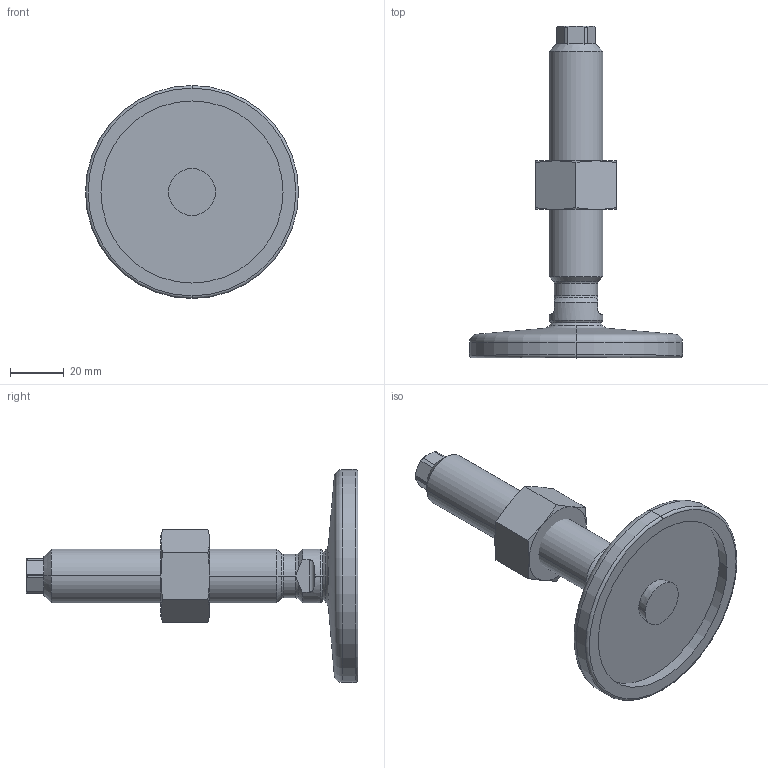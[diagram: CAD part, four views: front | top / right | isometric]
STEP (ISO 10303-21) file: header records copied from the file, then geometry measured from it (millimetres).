
FILE_DESCRIPTION (( 'STEP AP214' ), '1' );
FILE_NAME ('21-80-M20-100-D0-VK.step', '2020-10-02T17:36:04', ( '' ), ( '' ), 'SwSTEP 2.0', 'SolidWorks 2019', '' );
FILE_SCHEMA (( 'AUTOMOTIVE_DESIGN' ));
Length unit declared in the file: millimetre
Products named in the file (4): WB4032^WB21_V_M20; 21-80-M20-100-D0-VK; WB21_Fußteller 21^WB21_V_D0-080-R12-B9 (M20); WB21_Spindel_V^WB21_V_M20-100
Assembly tree (3 placements, depth 2):
  21-80-M20-100-D0-VK
    WB21_Fußteller 21^WB21_V_D0-080-R12-B9 (M20)
    WB21_Spindel_V^WB21_V_M20-100
    WB4032^WB21_V_M20
Bounding box: 79 x 123.02 x 79 mm (x, y, z)
Volume: 73724.6 mm3; surface area: 24441 mm2
Topology: 3 solids, 3 shells, 101 faces, 225 edges, 133 vertices
Faces by surface type: cone 33, plane 29, cylinder 25, torus 10, sphere 4
Entity records: 3164 total; most frequent: CARTESIAN_POINT 737, DIRECTION 492, ORIENTED_EDGE 450, EDGE_CURVE 225, AXIS2_PLACEMENT_3D 212, VERTEX_POINT 133, EDGE_LOOP 106, CIRCLE 105
